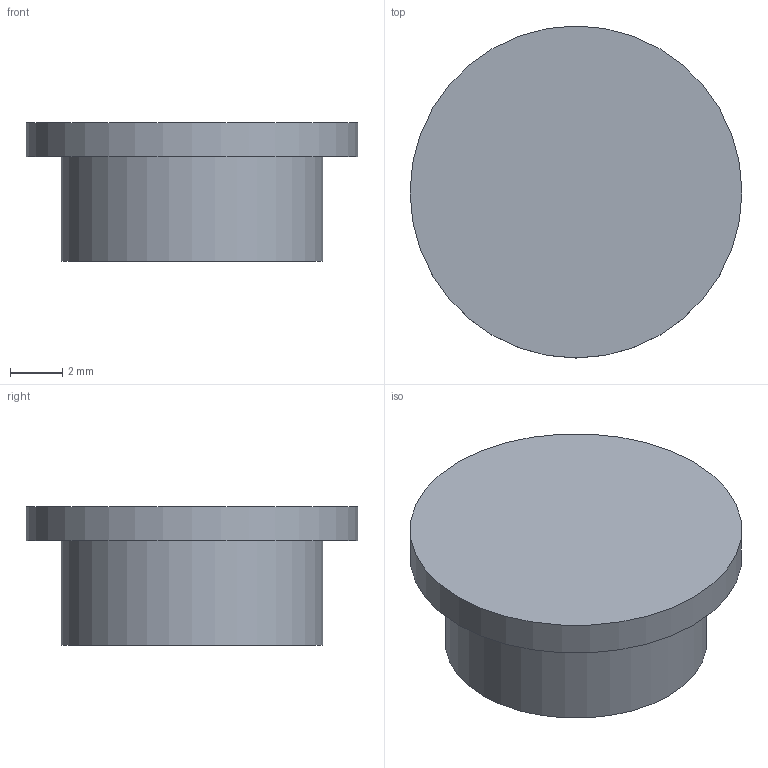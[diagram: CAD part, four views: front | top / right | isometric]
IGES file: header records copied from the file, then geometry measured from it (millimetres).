
Start section: Data from Parasolid IGES Translator 20.0.26, Copyright(c) 2006 Siemens P LM Software. All Rights Reserved.
Global section: file name: 9298854.igs; native system: By Siemens PLM Incorporated; preprocessor: XPlus GENERIC/IGES 20.0.26; author: Noname; organization: Noname; date: 20210826.154824; units: millimetre
Bounding box: 12.7 x 12.7 x 5.3 mm (x, y, z)
Surface area: 525.6 mm2 (no closed solid volume)
Topology: 0 solids, 0 shells, 7 faces, 18 edges, 12 vertices
Faces by surface type: extrusion 4, revolution 3
